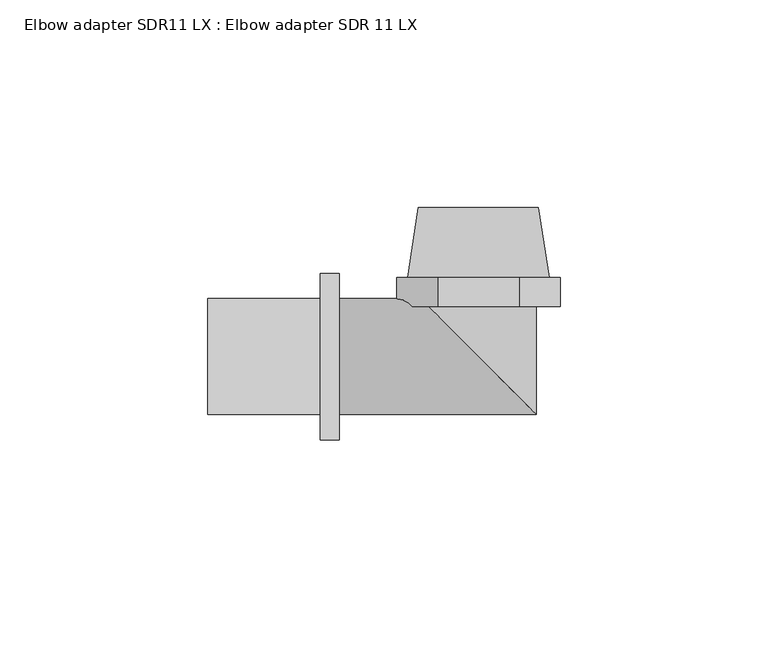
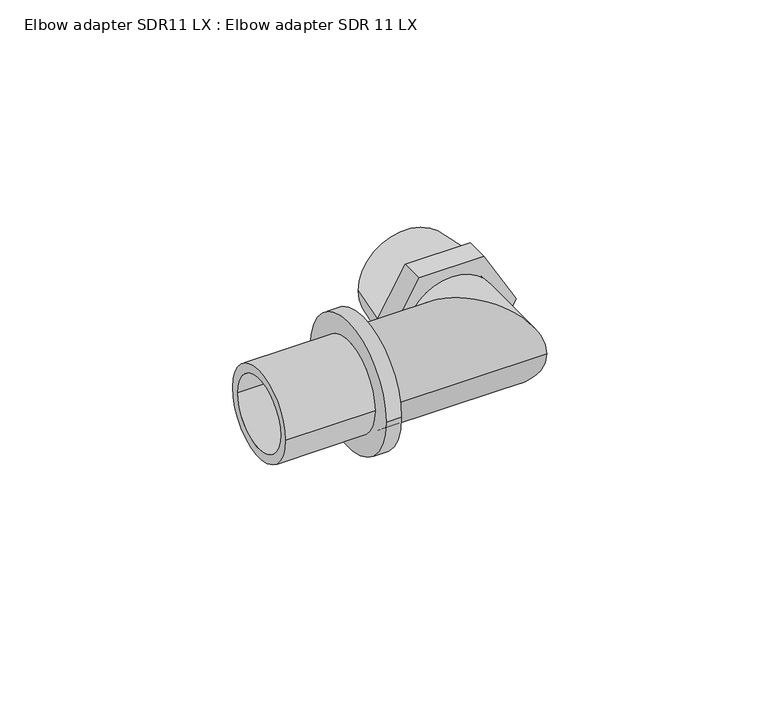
"""IFC4 building model written with IfcOpenShell, lengths in millimetres: pipe fitting geometry, Elbow adapter SDR11 LX : Elbow adapter SDR 11 LX."""

from ifc_helpers import new_model, si_unit, point, frame, origin, origin_2d, place, context, project, spatial, polyline, circle_curve, ellipse_curve, trimmed, segment, composite_curve, outline, extrude, source, transform, mapped, element, save
from ifc_brep_helpers import plane_surface, cylinder_surface, revolved_surface, advanced_brep


def elbow_adapter_sdr11_lx_elbow_adapter_sdr_11_lx_d9d460eb(model_context):
    return source(origin(), model_context, "Body", "SolidModel", [
        extrude(outline(polyline([(0.0, -19.6299092), (-17.0, -9.8149546), (-17.0, 9.8149546), (0.0, 19.6299092), (17.0, 9.8149546), (17.0, -9.8149546), (0.0, -19.6299092)]), holes=[composite_curve([segment(trimmed(circle_curve(origin_2d(), 12.0), [point((-12.0, 0.0))], [point((12.0, 0.0))], True, "CARTESIAN"), True, "CONTINUOUS"), segment(trimmed(circle_curve(origin_2d(), 12.0), [point((12.0, 0.0))], [point((-12.0, 0.0))], True, "CARTESIAN"), True, "CONTINUOUS")], self_intersect=False)]), frame((0.0, 12.0, 0.0), z_axis=(0.0, 1.0, 0.0), x_axis=(0.0, 0.0, 1.0)), (0.0, 0.0, 1.0), 7.0),
        advanced_brep(
        [(14.4, 35.8, 0.0), (-14.4, 35.8, 0.0), (0.0, 35.8, 12.0), (0.0, 35.8, -12.0), (17.0, 19.0, 0.0), (-17.0, 19.0, 0.0), (0.0, 19.0, -12.0), (0.0, 19.0, 12.0)],
        [
            (0, 1, circle_curve(frame((0.0, 35.8, 0.0), z_axis=(0.0, 1.0, 0.0), x_axis=(1.0, 0.0, 0.0)), 14.4)),
            (1, 0, circle_curve(frame((0.0, 35.8, 0.0), z_axis=(0.0, 1.0, 0.0), x_axis=(-1.0, 0.0, 0.0)), 14.4)),
            (2, 3, circle_curve(frame((0.0, 35.8, 0.0), z_axis=(0.0, -1.0, 0.0), x_axis=(0.0, 0.0, 1.0)), 12.0)),
            (3, 2, circle_curve(frame((0.0, 35.8, 0.0), z_axis=(0.0, -1.0, 0.0), x_axis=(0.0, 0.0, 1.0)), 12.0)),
            (4, 5, circle_curve(frame((0.0, 19.0, 0.0), z_axis=(0.0, -1.0, 0.0), x_axis=(-1.0, 0.0, 0.0)), 17.0)),
            (5, 4, circle_curve(frame((0.0, 19.0, 0.0), z_axis=(0.0, -1.0, 0.0), x_axis=(1.0, 0.0, 0.0)), 17.0)),
            (6, 7, circle_curve(frame((0.0, 19.0, 0.0), z_axis=(0.0, 1.0, 0.0), x_axis=(0.0, 0.0, 1.0)), 12.0)),
            (7, 6, circle_curve(frame((0.0, 19.0, 0.0), z_axis=(0.0, 1.0, 0.0), x_axis=(0.0, 0.0, 1.0)), 12.0)),
            (0, 4),
            (5, 1),
            (6, 3),
            (2, 7),
        ],
        [
            plane_surface(frame((0.0, 35.8, 0.0), z_axis=(0.0, 1.0, 0.0), x_axis=(0.0, 0.0, -1.0))),
            plane_surface(frame((0.0, 19.0, 0.0), z_axis=(0.0, -1.0, 0.0), x_axis=(0.0, 0.0, -1.0))),
            revolved_surface(polyline([(14.399999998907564, 35.8, 0.0), (17.0, 19.0, 0.0)]), (0.0, 128.8461538, 0.0), (0.0, -1.0, 0.0)),
            revolved_surface(polyline([(-14.399999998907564, 35.8, 0.0), (-17.0, 19.0, 0.0)]), (0.0, 128.8461538, 0.0), (0.0, -1.0, 0.0)),
            revolved_surface(polyline([(0.0, 35.8, 12.0), (0.0, 19.0, 12.0)]), (0.0, 12.0, 0.0), (0.0, 1.0, 0.0)),
        ],
        [
            (0, [[1, 2], [3, 4]]),
            (1, [[5, 6], [7, 8]]),
            (2, [[-1, 9, -6, 10]]),
            (3, [[-2, -10, -5, -9]]),
            (4, [[11, -3, 12, -7]]),
            (4, [[-11, -8, -12, -4]]),
        ],
    ),
        advanced_brep(
        [(-33.5, -13.95, 0.0), (-33.5, 13.95, 0.0), (-33.5, -11.2, 0.0), (-33.5, 11.2, 0.0), (13.95, -13.95, 0.0), (-13.95, 13.95, 0.0), (11.2, -11.2, 0.0), (-11.2, 11.2, 0.0), (13.95, 19.0, 0.0), (-13.95, 19.0, 0.0), (11.2, 19.0, 0.0), (-11.2, 19.0, 0.0)],
        [
            (0, 1, circle_curve(frame((-33.5, 0.0, 0.0), z_axis=(-1.0, 0.0, 0.0), x_axis=(0.0, 1.0, 0.0)), 13.95)),
            (1, 0, circle_curve(frame((-33.5, 0.0, 0.0), z_axis=(-1.0, 0.0, 0.0), x_axis=(0.0, 1.0, 0.0)), 13.95)),
            (2, 3, circle_curve(frame((-33.5, 0.0, 0.0), z_axis=(1.0, 0.0, 0.0), x_axis=(0.0, 1.0, 0.0)), 11.2)),
            (3, 2, circle_curve(frame((-33.5, 0.0, 0.0), z_axis=(1.0, 0.0, 0.0), x_axis=(0.0, 1.0, 0.0)), 11.2)),
            (0, 4),
            (4, 5, ellipse_curve(frame((0.0, 0.0, 0.0), z_axis=(-0.7071067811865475, -0.7071067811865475, 0.0), x_axis=(-0.7071067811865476, 0.7071067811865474, 0.0)), 19.7282792, 13.95)),
            (5, 1),
            (5, 4, ellipse_curve(frame((0.0, 0.0, 0.0), z_axis=(-0.7071067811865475, -0.7071067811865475, 0.0), x_axis=(-0.7071067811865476, 0.7071067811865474, 0.0)), 19.7282792, 13.95)),
            (2, 6),
            (6, 7, ellipse_curve(frame((0.0, 0.0, 0.0), z_axis=(0.7071067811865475, 0.7071067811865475, 0.0), x_axis=(0.7071067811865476, -0.7071067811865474, 0.0)), 15.8391919, 11.2)),
            (7, 3),
            (7, 6, ellipse_curve(frame((0.0, 0.0, 0.0), z_axis=(0.7071067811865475, 0.7071067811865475, 0.0), x_axis=(0.7071067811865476, -0.7071067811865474, 0.0)), 15.8391919, 11.2)),
            (8, 9, circle_curve(frame((0.0, 19.0, 0.0), z_axis=(0.0, 1.0, 0.0), x_axis=(-1.0, 0.0, 0.0)), 13.95)),
            (9, 8, circle_curve(frame((0.0, 19.0, 0.0), z_axis=(0.0, 1.0, 0.0), x_axis=(-1.0, 0.0, 0.0)), 13.95)),
            (10, 11, circle_curve(frame((0.0, 19.0, 0.0), z_axis=(0.0, -1.0, 0.0), x_axis=(-1.0, 0.0, 0.0)), 11.2)),
            (11, 10, circle_curve(frame((0.0, 19.0, 0.0), z_axis=(0.0, -1.0, 0.0), x_axis=(-1.0, 0.0, 0.0)), 11.2)),
            (4, 8),
            (9, 5),
            (6, 10),
            (11, 7),
        ],
        [
            plane_surface(frame((-33.5, 0.0, 0.0), z_axis=(-1.0, 0.0, 0.0), x_axis=(0.0, 0.0, 1.0))),
            cylinder_surface(frame((-33.5, 0.0, 0.0), z_axis=(-1.0, 0.0, 0.0), x_axis=(0.0, 1.0, 0.0)), 13.95),
            revolved_surface(polyline([(11.200000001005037, 11.2, 0.0), (-33.5, 11.2, 0.0)]), (-33.5, 0.0, 0.0), (1.0, 0.0, 0.0)),
            plane_surface(frame((0.0, 19.0, 0.0), z_axis=(0.0, 1.0, 0.0), x_axis=(0.0, 0.0, 1.0))),
            cylinder_surface(frame((0.0, 0.0, 0.0), z_axis=(0.0, -1.0, 0.0), x_axis=(-1.0, 0.0, 0.0)), 13.95),
            revolved_surface(polyline([(-11.2, 19.0, 0.0), (-11.2, -11.200000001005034, 0.0)]), (0.0, 0.0, 0.0), (0.0, 1.0, 0.0)),
        ],
        [
            (0, [[1, 2], [3, 4]]),
            (1, [[-1, 5, 6, 7]]),
            (1, [[-2, -7, 8, -5]]),
            (2, [[-3, 9, 10, 11]]),
            (2, [[-4, -11, 12, -9]]),
            (3, [[13, 14], [15, 16]]),
            (4, [[-6, 17, -14, 18]]),
            (4, [[-8, -18, -13, -17]]),
            (5, [[-10, 19, -16, 20]]),
            (5, [[-12, -20, -15, -19]]),
        ],
    ),
        advanced_brep(
        [(-33.5, 20.0, 0.0), (-33.5, -20.0, 0.0), (-38.0, -20.0, 0.0), (-38.0, 20.0, 0.0), (-38.0, 13.95, 0.0), (-38.0, -13.95, 0.0), (-65.0, -13.95, 0.0), (-65.0, 13.95, 0.0), (-65.0, 11.2, 0.0), (-65.0, -11.2, 0.0), (-33.5, -11.2, 0.0), (-33.5, 11.2, 0.0)],
        [
            (0, 1, circle_curve(frame((-33.5, 0.0, 0.0), z_axis=(-1.0, 0.0, 0.0), x_axis=(0.0, -1.0, 0.0)), 20.0)),
            (1, 2),
            (2, 3, circle_curve(frame((-38.0, 0.0, 0.0), z_axis=(1.0, 0.0, 0.0), x_axis=(0.0, -1.0, 0.0)), 20.0)),
            (3, 0),
            (4, 5, circle_curve(frame((-38.0, 0.0, 0.0), z_axis=(-1.0, 0.0, 0.0), x_axis=(0.0, -1.0, 0.0)), 13.95)),
            (5, 6),
            (6, 7, circle_curve(frame((-65.0, 0.0, 0.0), z_axis=(1.0, 0.0, 0.0), x_axis=(0.0, -1.0, 0.0)), 13.95)),
            (7, 4),
            (8, 9, circle_curve(frame((-65.0, 0.0, 0.0), z_axis=(-1.0, 0.0, 0.0), x_axis=(0.0, -1.0, 0.0)), 11.2)),
            (9, 10),
            (10, 11, circle_curve(frame((-33.5, 0.0, 0.0), z_axis=(1.0, 0.0, 0.0), x_axis=(0.0, -1.0, 0.0)), 11.2)),
            (11, 8),
            (0, 1, circle_curve(frame((-33.5, 0.0, 0.0), z_axis=(1.0, 0.0, 0.0), x_axis=(0.0, 1.0, 0.0)), 20.0)),
            (10, 11, circle_curve(frame((-33.5, 0.0, 0.0), z_axis=(-1.0, 0.0, 0.0), x_axis=(0.0, 1.0, 0.0)), 11.2)),
            (3, 2, circle_curve(frame((-38.0, 0.0, 0.0), z_axis=(1.0, 0.0, 0.0), x_axis=(0.0, 1.0, 0.0)), 20.0)),
            (4, 5, circle_curve(frame((-38.0, 0.0, 0.0), z_axis=(1.0, 0.0, 0.0), x_axis=(0.0, 1.0, 0.0)), 13.95)),
            (7, 6, circle_curve(frame((-65.0, 0.0, 0.0), z_axis=(1.0, 0.0, 0.0), x_axis=(0.0, 1.0, 0.0)), 13.95)),
            (8, 9, circle_curve(frame((-65.0, 0.0, 0.0), z_axis=(1.0, 0.0, 0.0), x_axis=(0.0, 1.0, 0.0)), 11.2)),
        ],
        [
            cylinder_surface(frame((0.0, 0.0, 0.0), z_axis=(1.0, 0.0, 0.0), x_axis=(0.0, -1.0, 0.0)), 20.0),
            cylinder_surface(frame((0.0, 0.0, 0.0), z_axis=(1.0, 0.0, 0.0), x_axis=(0.0, -1.0, 0.0)), 13.95),
            revolved_surface(polyline([(-33.5, -11.2, 0.0), (-65.0, -11.2, 0.0)]), (0.0, 0.0, 0.0), (1.0, 0.0, 0.0)),
            plane_surface(frame((-33.5, 0.0, 0.0), z_axis=(1.0, 0.0, 0.0), x_axis=(0.0, 1.0, 0.0))),
            cylinder_surface(frame((0.0, 0.0, 0.0), z_axis=(1.0, 0.0, 0.0), x_axis=(0.0, 1.0, 0.0)), 20.0),
            plane_surface(frame((-38.0, 0.0, 0.0), z_axis=(-1.0, 0.0, 0.0), x_axis=(0.0, 1.0, 0.0))),
            cylinder_surface(frame((0.0, 0.0, 0.0), z_axis=(1.0, 0.0, 0.0), x_axis=(0.0, 1.0, 0.0)), 13.95),
            plane_surface(frame((-65.0, 0.0, 0.0), z_axis=(-1.0, 0.0, 0.0), x_axis=(0.0, 1.0, 0.0))),
            revolved_surface(polyline([(-33.5, 11.2, 0.0), (-65.0, 11.2, 0.0)]), (0.0, 0.0, 0.0), (1.0, 0.0, 0.0)),
        ],
        [
            (0, [[1, 2, 3, 4]]),
            (1, [[5, 6, 7, 8]]),
            (2, [[9, 10, 11, 12]]),
            (3, [[13, -1], [14, -11]]),
            (4, [[-13, -4, 15, -2]]),
            (5, [[-15, -3], [16, -5]]),
            (6, [[-16, -8, 17, -6]]),
            (7, [[-17, -7], [18, -9]]),
            (8, [[-18, -12, -14, -10]]),
        ],
    ),
    ])


if __name__ == "__main__":
    model = new_model("IFC4")
    model_context = context("Model", 3, world=origin())
    ifc_project = project(units=[si_unit("LENGTHUNIT", "METRE", prefix="MILLI")], contexts=[model_context])
    site = spatial("IfcSite", under=ifc_project)
    building = spatial("IfcBuilding", under=site)
    placement = place(None, origin())
    elbow_adapter_sdr11_lx_elbow_adapter_sdr_11_lx_shape = elbow_adapter_sdr11_lx_elbow_adapter_sdr_11_lx_d9d460eb(model_context)
    element("IfcPipeFitting", 1, ObjectType="Elbow adapter SDR11 LX : Elbow adapter SDR 11 LX", at=placement, inside=building, context=model_context, shape_type="MappedRepresentation", body=[
        mapped(elbow_adapter_sdr11_lx_elbow_adapter_sdr_11_lx_shape, transform((0.0, 0.0, 0.0), x_axis=(1.0, 0.0, 0.0), y_axis=(0.0, 1.0, 0.0), z_axis=(0.0, 0.0, 1.0))),
    ])
    save(model, "model.ifc")
